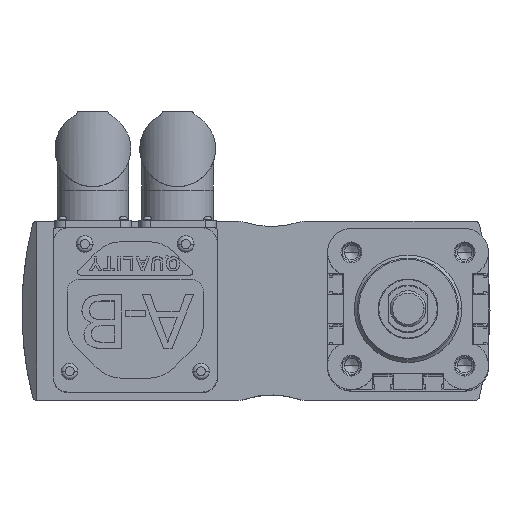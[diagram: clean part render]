
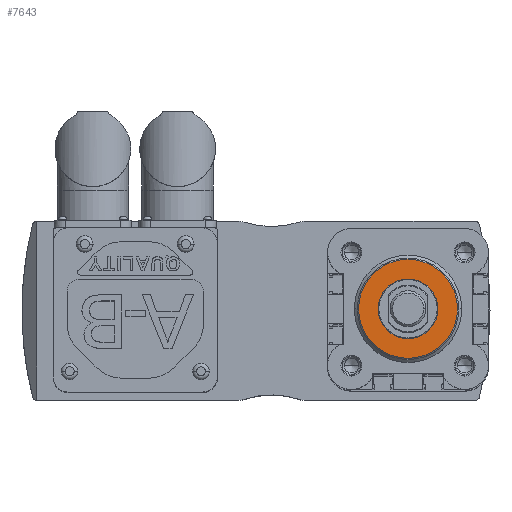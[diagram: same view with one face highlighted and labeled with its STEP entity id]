
A CAD part, top view. The second image highlights one B-rep face of the part: STEP entity #7643.
In plain terms, the highlighted planar face has unit normal (0, 0, 1).
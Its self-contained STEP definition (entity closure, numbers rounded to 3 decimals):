
#95 = EDGE_LOOP ( 'NONE', ( #45914, #45902 ) ) ;
#97 = EDGE_LOOP ( 'NONE', ( #45921, #45916 ) ) ;
#3149 = VERTEX_POINT ( 'NONE', #38719 ) ;
#3480 = VERTEX_POINT ( 'NONE', #39031 ) ;
#3484 = VERTEX_POINT ( 'NONE', #39034 ) ;
#3806 = VERTEX_POINT ( 'NONE', #4068 ) ;
#4068 = CARTESIAN_POINT ( 'NONE',  ( 16.6, 0., 21. ) ) ;
#4625 = AXIS2_PLACEMENT_3D ( 'NONE', #25622, #25632, #25633 ) ;
#7643 = ADVANCED_FACE ( 'NONE', ( #19389, #19377 ), #16700, .T. ) ;
#11248 = EDGE_CURVE ( 'NONE', #3806, #3149, #42414, .T. ) ;
#11373 = EDGE_CURVE ( 'NONE', #3480, #3484, #41846, .T. ) ;
#11652 = EDGE_CURVE ( 'NONE', #3149, #3806, #41681, .T. ) ;
#11668 = EDGE_CURVE ( 'NONE', #3484, #3480, #41531, .T. ) ;
#16700 = PLANE ( 'NONE',  #19375 ) ;
#16702 = CARTESIAN_POINT ( 'NONE',  ( 0., 8.3, 21. ) ) ;
#16704 = DIRECTION ( 'NONE',  ( 0., 0., 1. ) ) ;
#16706 = DIRECTION ( 'NONE',  ( 1., 0., 0. ) ) ;
#19375 = AXIS2_PLACEMENT_3D ( 'NONE', #16702, #16704, #16706 ) ;
#19377 = FACE_OUTER_BOUND ( 'NONE', #97, .T. ) ;
#19389 = FACE_BOUND ( 'NONE', #95, .T. ) ;
#25352 = AXIS2_PLACEMENT_3D ( 'NONE', #27273, #27274, #27275 ) ;
#25361 = AXIS2_PLACEMENT_3D ( 'NONE', #27345, #27347, #27349 ) ;
#25622 = CARTESIAN_POINT ( 'NONE',  ( 0., 0., 21. ) ) ;
#25632 = DIRECTION ( 'NONE',  ( 0., 0., 1. ) ) ;
#25633 = DIRECTION ( 'NONE',  ( -1., 0., 0. ) ) ;
#26090 = CARTESIAN_POINT ( 'NONE',  ( 0., 0., 21. ) ) ;
#26094 = DIRECTION ( 'NONE',  ( 0., 0., -1. ) ) ;
#26095 = DIRECTION ( 'NONE',  ( -1., 0., 0. ) ) ;
#27273 = CARTESIAN_POINT ( 'NONE',  ( 0., 0., 21. ) ) ;
#27274 = DIRECTION ( 'NONE',  ( 0., 0., 1. ) ) ;
#27275 = DIRECTION ( 'NONE',  ( -1., 0., 0. ) ) ;
#27345 = CARTESIAN_POINT ( 'NONE',  ( 0., 0., 21. ) ) ;
#27347 = DIRECTION ( 'NONE',  ( 0., 0., -1. ) ) ;
#27349 = DIRECTION ( 'NONE',  ( -1., 0., 0. ) ) ;
#38719 = CARTESIAN_POINT ( 'NONE',  ( -16.6, 0., 21. ) ) ;
#39031 = CARTESIAN_POINT ( 'NONE',  ( 10., 0., 21. ) ) ;
#39034 = CARTESIAN_POINT ( 'NONE',  ( -10., 0., 21. ) ) ;
#41531 = CIRCLE ( 'NONE', #25361, 10. ) ;
#41681 = CIRCLE ( 'NONE', #25352, 16.6 ) ;
#41846 = CIRCLE ( 'NONE', #44971, 10. ) ;
#42414 = CIRCLE ( 'NONE', #4625, 16.6 ) ;
#44971 = AXIS2_PLACEMENT_3D ( 'NONE', #26090, #26094, #26095 ) ;
#45902 = ORIENTED_EDGE ( 'NONE', *, *, #11373, .T. ) ;
#45914 = ORIENTED_EDGE ( 'NONE', *, *, #11668, .T. ) ;
#45916 = ORIENTED_EDGE ( 'NONE', *, *, #11248, .T. ) ;
#45921 = ORIENTED_EDGE ( 'NONE', *, *, #11652, .T. ) ;
